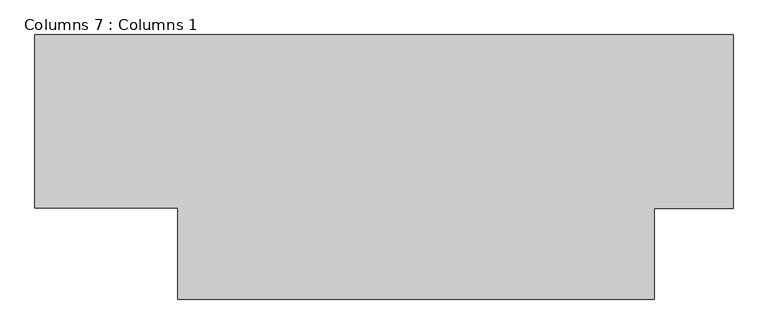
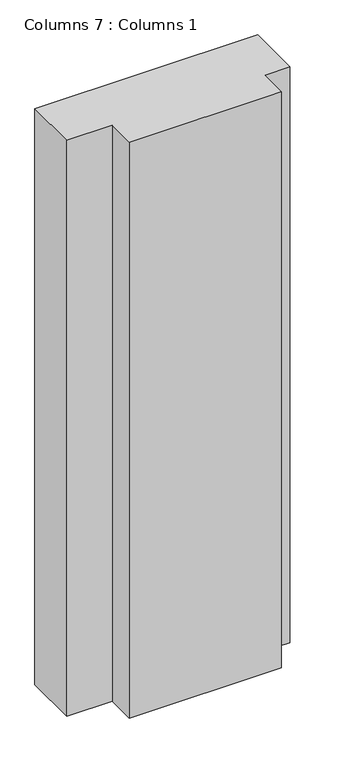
"""IFC4 building model written with IfcOpenShell, lengths in millimetres: column geometry, Columns 7 : Columns 1."""

from ifc_helpers import new_model, si_unit, origin, origin_with_axes, place, context, project, spatial, polyline, outline, extrude, source, transform, mapped, element, save


def columns_7_columns_1_82286abc(model_context):
    return source(origin(), model_context, "Body", "SweptSolid", [
        extrude(outline(polyline([(-36775.251127, 87570.1591334), (-36775.251127, 87236.5552348), (-36926.2308539, 87236.5552348), (-36926.2308539, 87062.1591334), (-37840.6308539, 87062.1591334), (-37840.6308539, 87237.6589024), (-38114.2854697, 87237.6589024), (-38114.2854697, 87570.1591334), (-36775.251127, 87570.1591334)])), origin_with_axes(), (0.0, 0.0, 1.0), 3657.6),
    ])


if __name__ == "__main__":
    model = new_model("IFC4")
    model_context = context("Model", 3, world=origin())
    ifc_project = project(units=[si_unit("LENGTHUNIT", "METRE", prefix="MILLI")], contexts=[model_context])
    site = spatial("IfcSite", under=ifc_project)
    building = spatial("IfcBuilding", under=site)
    placement = place(None, origin())
    columns_7_columns_1_shape = columns_7_columns_1_82286abc(model_context)
    element("IfcColumn", 1, ObjectType="Columns 7 : Columns 1", at=placement, inside=building, context=model_context, shape_type="MappedRepresentation", body=[
        mapped(columns_7_columns_1_shape, transform((0.0, 0.0, 0.0), x_axis=(1.0, 0.0, 0.0), y_axis=(0.0, 1.0, 0.0), z_axis=(0.0, 0.0, 1.0))),
    ])
    save(model, "model.ifc")
